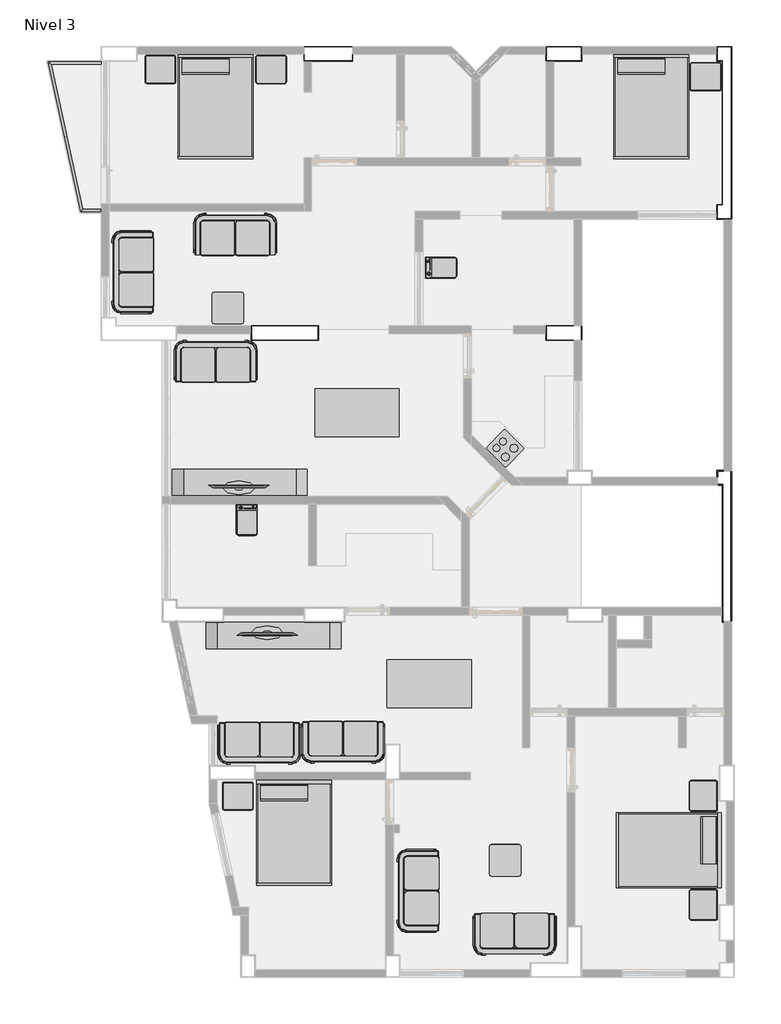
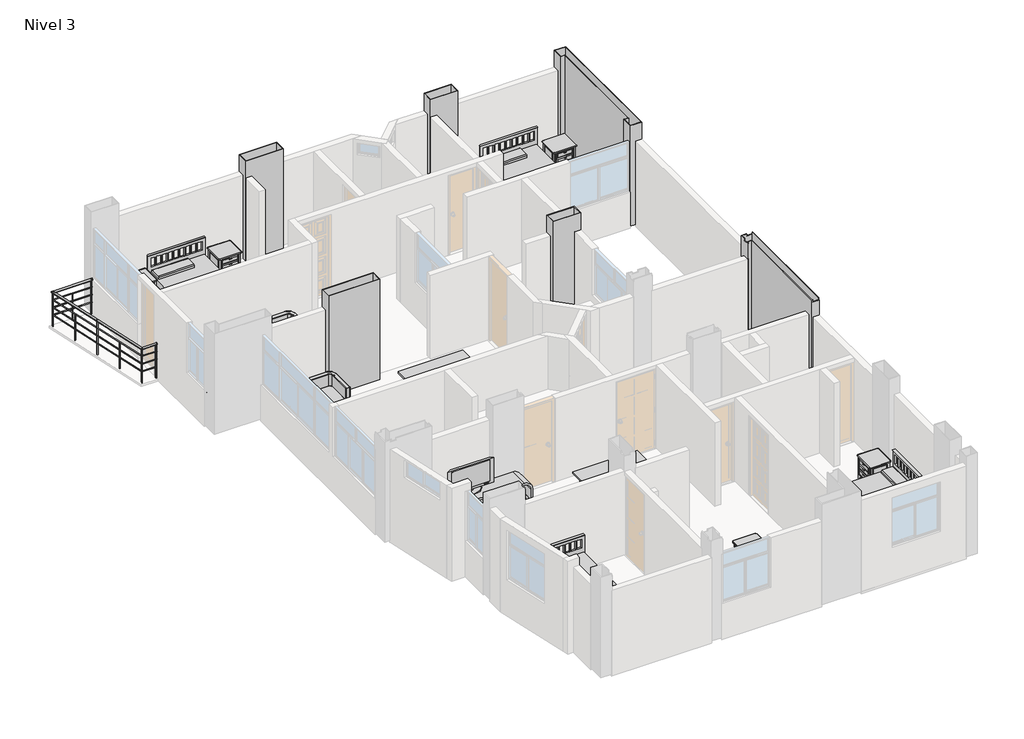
# One storey, part 4 of 4: 23 furniture elements, 6 columns, 5 proxies, 1 railing.
"""IFC4 building model written with IfcOpenShell, lengths in millimetres."""

from ifc_helpers import new_model, si_unit, point, frame, frame_2d, origin, place, context, project, spatial, circle_curve, ellipse_curve, trimmed, segment, composite_curve, outline, extrude, faceted_brep, transform, mapped, element, save
from ifc_brep_helpers import plane_surface, cylinder_surface, advanced_brep
from components import specialty_equipment_2e13d9fc, proxy_400mm_x_600mm_x_850mm_a42225af, proxy_42_inch_plasma_tv_11107_42_inch_plasma_tv_11107_394337c5, furniture_18450899, furniture_bfac4297, furniture_1422_x_1981_mm_doble_c85bece8, furniture_160_x_80_cm_madera_claro_7cd3064c, furniture_600mm_x_600mm_a769e95e, bed_side_table_9129_bed_side_table_9129_b31ec6e2, bed_side_table_9129_bed_side_table_9129_c77a05bd, tv_room_furn_4056_tv_room_furn_4056_870fe8c4

model = new_model("IFC4")

# Units and contexts
model_context = context("Model", 3, world=origin())
ifc_project = project(units=[si_unit("LENGTHUNIT", "METRE", prefix="MILLI")], contexts=[model_context])

# Site, building, storey
site = spatial("IfcSite", under=ifc_project)
building = spatial("IfcBuilding", under=site)
storey = spatial("IfcBuildingStorey", under=building, Name="Nivel 3", Elevation=5450.0)

# Proxies
placement = place(None, origin())
specialty_equipment_shape = specialty_equipment_2e13d9fc(model_context)
element("IfcBuildingElementProxy", 1, Name="Electric Hob : Electric Hob", ObjectType="Electric Hob : Electric Hob", at=placement, inside=storey, context=model_context, shape_type="MappedRepresentation", body=[
    mapped(specialty_equipment_shape, transform((5026.7577455, 10021.1807466, 6250.0), x_axis=(-0.7121213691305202, 0.7020563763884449, 0.0), y_axis=(-0.7020563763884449, -0.7121213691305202, 0.0), z_axis=(0.0, 0.0, 1.0))),
])
proxy_400mm_x_600mm_x_850mm_shape = proxy_400mm_x_600mm_x_850mm_a42225af(model_context)
element("IfcBuildingElementProxy", 2, Name="Lave linge - Chargement par le dessus : 400mm x 600mm x 850mm", ObjectType="Lave linge - Chargement par le dessus : 400mm x 600mm x 850mm", at=placement, inside=storey, context=model_context, shape_type="MappedRepresentation", body=[
    mapped(proxy_400mm_x_600mm_x_850mm_shape, transform((3933.8207986, 13503.4949484, 5450.0), x_axis=(0.0, 1.0, 0.0), y_axis=(-1.0, 0.0, 0.0), z_axis=(0.0, 0.0, 1.0))),
])
element("IfcBuildingElementProxy", 3, Name="Lave linge - Chargement par le dessus : 400mm x 600mm x 850mm", ObjectType="Lave linge - Chargement par le dessus : 400mm x 600mm x 850mm", at=placement, inside=storey, context=model_context, shape_type="MappedRepresentation", body=[
    mapped(proxy_400mm_x_600mm_x_850mm_shape, transform((138.4955292, 8536.1797822, 5450.0), x_axis=(1.0, 0.0, 0.0), y_axis=(0.0, 1.0, 0.0), z_axis=(0.0, 0.0, 1.0))),
])
proxy_42_inch_plasma_tv_11107_42_inch_plasma_tv_11107_shape = proxy_42_inch_plasma_tv_11107_42_inch_plasma_tv_11107_394337c5(model_context)
element("IfcBuildingElementProxy", 4, Name="42_inch_plasma_tv_11107 : 42_inch_plasma_tv_11107", ObjectType="42_inch_plasma_tv_11107 : 42_inch_plasma_tv_11107", at=placement, inside=storey, context=model_context, shape_type="MappedRepresentation", body=[
    mapped(proxy_42_inch_plasma_tv_11107_42_inch_plasma_tv_11107_shape, transform((-49.9994192, 9335.0, 6300.0), x_axis=(-1.0, 0.0, 0.0), y_axis=(0.0, -1.0, 0.0), z_axis=(0.0, 0.0, 1.0))),
])
element("IfcBuildingElementProxy", 5, Name="42_inch_plasma_tv_11107 : 42_inch_plasma_tv_11107", ObjectType="42_inch_plasma_tv_11107 : 42_inch_plasma_tv_11107", at=placement, inside=storey, context=model_context, shape_type="MappedRepresentation", body=[
    mapped(proxy_42_inch_plasma_tv_11107_42_inch_plasma_tv_11107_shape, transform((490.0005808, 6480.0, 6300.0), x_axis=(1.0, 0.0, 0.0), y_axis=(0.0, 1.0, 0.0), z_axis=(0.0, 0.0, 1.0))),
])

# Columns
element("IfcColumn", 6, ObjectType="Columna U Arquitectonica : Columna U Arquitectonica", at=placement, inside=storey, context=model_context, shape_type="Brep", body=[
    faceted_brep([(9035.0, 14665.0, 5450.0), (9135.0, 14665.0, 5450.0), (9135.0, 17385.0, 5450.0), (9035.0, 17385.0, 5450.0), (9035.0, 17665.0, 5450.0), (9315.0, 17665.0, 5450.0), (9315.0, 14385.0, 5450.0), (9035.0, 14385.0, 5450.0), (9050.0, 14650.0, 5450.0), (9050.0, 14400.0, 5450.0), (9300.0, 14400.0, 5450.0), (9300.0, 17650.0, 5450.0), (9050.0, 17650.0, 5450.0), (9050.0, 17400.0, 5450.0), (9150.0, 17400.0, 5450.0), (9150.0, 14650.0, 5450.0), (9150.0, 14650.0, 8100.0), (9050.0, 14650.0, 8100.0), (9150.0, 17400.0, 8100.0), (9050.0, 17400.0, 8100.0), (9050.0, 17650.0, 8100.0), (9300.0, 17650.0, 8100.0), (9300.0, 14400.0, 8100.0), (9050.0, 14400.0, 8100.0), (9035.0, 14665.0, 8100.0), (9035.0, 14385.0, 8100.0), (9315.0, 14385.0, 8100.0), (9315.0, 17665.0, 8100.0), (9035.0, 17665.0, 8100.0), (9035.0, 17385.0, 8100.0), (9135.0, 17385.0, 8100.0), (9135.0, 14665.0, 8100.0), (9035.0, 17665.0, 8050.0), (9035.0, 17665.0, 7650.0), (9315.0, 14385.0, 8050.0), (9315.0, 14385.0, 7650.0), (9035.0, 14385.0, 8050.0), (9035.0, 14385.0, 6350.0)], [[[0, 1, 2, 3, 4, 5, 6, 7], [8, 9, 10, 11, 12, 13, 14, 15]], [[16, 17, 8, 15]], [[18, 16, 15, 14]], [[19, 18, 14, 13]], [[20, 19, 13, 12]], [[21, 20, 12, 11]], [[22, 21, 11, 10]], [[23, 22, 10, 9]], [[17, 23, 9, 8]], [[24, 25, 26, 27, 28, 29, 30, 31], [17, 16, 18, 19, 20, 21, 22, 23]], [[24, 31, 1, 0]], [[31, 30, 2, 1]], [[30, 29, 3, 2]], [[29, 28, 32, 33, 4, 3]], [[28, 27, 5, 4, 33, 32]], [[27, 26, 34, 35, 6, 5]], [[26, 25, 36, 37, 7, 6, 35, 34]], [[25, 24, 0, 7, 37, 36]]]),
])
element("IfcColumn", 7, ObjectType="Columna L Arquitectonica : ACO_L 25x285x25x15 cm", at=placement, inside=storey, context=model_context, shape_type="Brep", body=[
    faceted_brep([(9165.0, 9600.0, 5450.0), (9050.0, 9600.0, 5450.0), (9050.0, 9485.0, 5450.0), (9035.0, 9485.0, 5450.0), (9035.0, 9615.0, 5450.0), (9165.0, 9615.0, 5450.0), (9150.0, 6750.0, 5450.0), (9150.0, 6750.0, 8100.0), (9165.0, 6750.0, 8100.0), (9165.0, 6750.0, 8050.0), (9300.0, 6750.0, 8050.0), (9300.0, 6750.0, 7650.0), (9165.0, 6750.0, 7650.0), (9165.0, 6750.0, 5450.0), (9300.0, 9600.0, 5450.0), (9300.0, 6750.0, 5450.0), (9300.0, 6750.0, 8100.0), (9300.0, 9600.0, 8100.0), (9300.0, 9600.0, 8050.0), (9300.0, 9600.0, 7650.0), (9050.0, 9600.0, 8100.0), (9165.0, 9600.0, 7650.0), (9165.0, 9600.0, 8050.0), (9165.0, 9600.0, 8100.0), (9050.0, 9485.0, 8100.0), (9050.0, 9485.0, 8050.0), (9050.0, 9350.0, 8050.0), (9050.0, 9350.0, 7650.0), (9050.0, 9485.0, 7650.0), (9150.0, 9350.0, 5450.0), (9050.0, 9350.0, 5450.0), (9050.0, 9350.0, 8100.0), (9150.0, 9350.0, 8100.0), (9135.0, 9335.0, 8100.0), (9135.0, 9335.0, 5450.0), (9135.0, 7015.0, 5450.0), (9135.0, 6865.0, 5450.0), (9135.0, 6735.0, 5450.0), (9135.0, 6735.0, 8100.0), (9135.0, 6865.0, 8100.0), (9135.0, 7015.0, 8100.0), (9050.0, 9335.0, 8100.0), (9050.0, 9335.0, 8050.0), (9035.0, 9335.0, 8050.0), (9035.0, 9335.0, 7650.0), (9050.0, 9335.0, 7650.0), (9050.0, 9335.0, 5450.0), (9035.0, 9615.0, 8100.0), (9035.0, 9485.0, 7650.0), (9035.0, 9485.0, 8050.0), (9035.0, 9485.0, 8100.0), (9165.0, 9615.0, 8100.0), (9165.0, 9615.0, 8050.0), (9315.0, 9615.0, 8050.0), (9315.0, 9615.0, 7650.0), (9165.0, 9615.0, 7650.0), (9315.0, 9600.0, 5450.0), (9315.0, 9600.0, 7650.0), (9315.0, 9600.0, 8050.0), (9315.0, 9600.0, 8100.0), (9315.0, 6750.0, 8100.0), (9315.0, 6750.0, 8050.0), (9315.0, 6735.0, 8050.0), (9315.0, 6735.0, 7650.0), (9315.0, 6750.0, 7650.0), (9315.0, 6750.0, 5450.0), (9165.0, 6735.0, 5450.0), (9165.0, 6735.0, 7650.0), (9165.0, 6735.0, 8050.0), (9165.0, 6735.0, 8100.0)], [[[0, 1, 2, 3, 4, 5]], [[6, 7, 8, 9, 10, 11, 12, 13]], [[14, 15, 11, 10, 16, 17, 18, 19]], [[20, 1, 0, 21, 19, 18, 22, 23]], [[1, 20, 24, 25, 26, 27, 28, 2]], [[29, 30, 27, 26, 31, 32]], [[6, 29, 32, 7]], [[33, 34, 35, 36, 37, 38, 39, 40]], [[34, 33, 41, 42, 43, 44, 45, 46]], [[47, 4, 3, 48, 44, 43, 49, 50]], [[4, 47, 51, 52, 53, 54, 55, 5]], [[56, 57, 54, 53, 58, 59, 60, 61, 62, 63, 64, 65]], [[38, 37, 66, 67, 63, 62, 68, 69]], [[17, 16, 60, 59]], [[55, 21, 0, 5]], [[19, 57, 56, 14]], [[57, 19, 21, 55, 54]], [[12, 67, 66, 13]], [[11, 64, 63, 67, 12]], [[64, 11, 15, 65]], [[15, 14, 56, 65]], [[28, 48, 3, 2]], [[45, 27, 30, 46]], [[27, 45, 44, 48, 28]], [[30, 29, 6, 13, 66, 37, 36, 35, 34, 46]], [[22, 52, 51, 23]], [[18, 58, 53, 52, 22]], [[58, 18, 17, 59]], [[68, 9, 8, 69]], [[61, 10, 9, 68, 62]], [[10, 61, 60, 16]], [[32, 31, 41, 33, 40, 39, 38, 69, 8, 7]], [[49, 25, 24, 50]], [[42, 26, 25, 49, 43]], [[26, 42, 41, 31]], [[20, 23, 51, 47, 50, 24]]]),
])
element("IfcColumn", 8, ObjectType="Columna Rectangular Arquitectonica : ACO_Rectangular 25x125 cm", at=placement, inside=storey, context=model_context, shape_type="Brep", body=[
    faceted_brep([(185.0, 12365.0, 5450.0), (1465.0, 12365.0, 5450.0), (1465.0, 12085.0, 5450.0), (185.0, 12085.0, 5450.0), (200.0, 12350.0, 5450.0), (200.0, 12100.0, 5450.0), (1450.0, 12100.0, 5450.0), (1450.0, 12350.0, 5450.0), (200.0, 12350.0, 8100.0), (200.0, 12100.0, 8100.0), (1450.0, 12100.0, 8100.0), (1450.0, 12350.0, 8100.0), (185.0, 12365.0, 8100.0), (1465.0, 12365.0, 8100.0), (185.0, 12365.0, 7650.0), (185.0, 12365.0, 8050.0), (1465.0, 12085.0, 8100.0), (185.0, 12085.0, 8100.0)], [[[0, 1, 2, 3], [4, 5, 6, 7]], [[8, 9, 5, 4]], [[9, 10, 6, 5]], [[10, 11, 7, 6]], [[11, 8, 4, 7]], [[12, 13, 1, 0, 14, 15]], [[13, 16, 2, 1]], [[16, 17, 3, 2]], [[17, 12, 15, 14, 0, 3]], [[12, 17, 16, 13], [8, 11, 10, 9]]]),
])
element("IfcColumn", 9, ObjectType="Columna Rectangular Arquitectonica : ACO_Rectangular 25x65 cm", at=placement, inside=storey, context=model_context, shape_type="Brep", body=[
    faceted_brep([(5785.0, 17665.0, 5450.0), (6465.0, 17665.0, 5450.0), (6465.0, 17385.0, 5450.0), (5785.0, 17385.0, 5450.0), (5800.0, 17650.0, 5450.0), (5800.0, 17400.0, 5450.0), (6450.0, 17400.0, 5450.0), (6450.0, 17650.0, 5450.0), (5800.0, 17650.0, 8100.0), (5800.0, 17400.0, 8100.0), (6450.0, 17400.0, 8100.0), (6450.0, 17650.0, 8100.0), (5785.0, 17665.0, 8100.0), (6465.0, 17665.0, 8100.0), (6465.0, 17665.0, 8050.0), (6465.0, 17665.0, 7650.0), (5785.0, 17665.0, 7650.0), (5785.0, 17665.0, 8050.0), (6465.0, 17385.0, 8100.0), (5785.0, 17385.0, 8100.0), (5785.0, 17385.0, 8050.0), (5785.0, 17385.0, 7650.0)], [[[0, 1, 2, 3], [4, 5, 6, 7]], [[8, 9, 5, 4]], [[9, 10, 6, 5]], [[10, 11, 7, 6]], [[11, 8, 4, 7]], [[12, 13, 14, 15, 1, 0, 16, 17]], [[13, 18, 2, 1, 15, 14]], [[18, 19, 20, 21, 3, 2]], [[19, 12, 17, 16, 0, 3, 21, 20]], [[12, 19, 18, 13], [8, 11, 10, 9]]]),
])
element("IfcColumn", 10, ObjectType="Columna Rectangular Arquitectonica : ACO_Rectangular 25x65 cm", at=placement, inside=storey, context=model_context, shape_type="Brep", body=[
    faceted_brep([(5785.0, 12365.0, 5450.0), (6465.0, 12365.0, 5450.0), (6465.0, 12085.0, 5450.0), (5785.0, 12085.0, 5450.0), (5800.0, 12350.0, 5450.0), (5800.0, 12100.0, 5450.0), (6450.0, 12100.0, 5450.0), (6450.0, 12350.0, 5450.0), (5800.0, 12350.0, 8100.0), (5800.0, 12100.0, 8100.0), (6450.0, 12100.0, 8100.0), (6450.0, 12350.0, 8100.0), (5785.0, 12365.0, 8100.0), (6465.0, 12365.0, 8100.0), (6465.0, 12365.0, 8050.0), (6465.0, 12365.0, 7650.0), (5785.0, 12365.0, 7650.0), (5785.0, 12365.0, 8050.0), (6465.0, 12085.0, 8100.0), (6465.0, 12085.0, 8050.0), (6465.0, 12085.0, 7650.0), (5785.0, 12085.0, 8100.0)], [[[0, 1, 2, 3], [4, 5, 6, 7]], [[8, 9, 5, 4]], [[9, 10, 6, 5]], [[10, 11, 7, 6]], [[11, 8, 4, 7]], [[12, 13, 14, 15, 1, 0, 16, 17]], [[13, 18, 19, 20, 2, 1, 15, 14]], [[18, 21, 3, 2, 20, 19]], [[21, 12, 17, 16, 0, 3]], [[12, 21, 18, 13], [8, 11, 10, 9]]]),
])
element("IfcColumn", 11, ObjectType="Columna Rectangular Arquitectonica : ACO_Rectangular 25x90 cm", at=placement, inside=storey, context=model_context, shape_type="Brep", body=[
    faceted_brep([(1185.0, 17665.0, 5450.0), (2115.0, 17665.0, 5450.0), (2115.0, 17385.0, 5450.0), (1185.0, 17385.0, 5450.0), (1200.0, 17650.0, 5450.0), (1200.0, 17400.0, 5450.0), (2100.0, 17400.0, 5450.0), (2100.0, 17650.0, 5450.0), (1200.0, 17650.0, 8100.0), (1200.0, 17400.0, 8100.0), (2100.0, 17400.0, 8100.0), (2100.0, 17650.0, 8100.0), (1185.0, 17665.0, 8100.0), (2115.0, 17665.0, 8100.0), (2115.0, 17665.0, 8050.0), (2115.0, 17665.0, 7650.0), (1185.0, 17665.0, 7650.0), (1185.0, 17665.0, 8050.0), (2115.0, 17385.0, 8100.0), (1185.0, 17385.0, 8100.0), (1185.0, 17385.0, 8050.0), (1185.0, 17385.0, 7650.0)], [[[0, 1, 2, 3], [4, 5, 6, 7]], [[8, 9, 5, 4]], [[9, 10, 6, 5]], [[10, 11, 7, 6]], [[11, 8, 4, 7]], [[12, 13, 14, 15, 1, 0, 16, 17]], [[13, 18, 2, 1, 15, 14]], [[18, 19, 20, 21, 3, 2]], [[19, 12, 17, 16, 0, 3, 21, 20]], [[12, 19, 18, 13], [8, 11, 10, 9]]]),
])

# Furniture
furniture_shape = furniture_18450899(model_context)
furniture_2_shape = furniture_bfac4297(model_context)
element("IfcFurniture", 12, ObjectType="00304 - Haworth - Castelli - Jul 13 - Ver - 4 - M_Sit (SLMS-FD02-8P) : Settee_SLMS-FD-02", at=placement, inside=storey, context=model_context, shape_type="MappedRepresentation", body=[
    mapped(furniture_shape, transform((-528.0530561, 11371.2276294, 5450.0), x_axis=(1.0, 0.0, 0.0), y_axis=(0.0, 1.0, 0.0), z_axis=(0.0, 0.0, 1.0))),
    mapped(furniture_2_shape, transform((-528.0530561, 11371.2276294, 5450.0), x_axis=(1.0, 0.0, 0.0), y_axis=(0.0, 1.0, 0.0), z_axis=(0.0, 0.0, 1.0))),
])
element("IfcFurniture", 13, ObjectType="00304 - Haworth - Castelli - Jul 13 - Ver - 4 - M_Sit (SLMS-FD02-8P) : Settee_SLMS-FD-02", at=placement, inside=storey, context=model_context, shape_type="MappedRepresentation", body=[
    mapped(furniture_shape, transform((-1751.2276294, 13341.9463631, 5450.0), x_axis=(0.0, 1.0, 0.0), y_axis=(-1.0, 0.0, 0.0), z_axis=(0.0, 0.0, 1.0))),
    mapped(furniture_2_shape, transform((-1751.2276294, 13341.9463631, 5450.0), x_axis=(0.0, 1.0, 0.0), y_axis=(-1.0, 0.0, 0.0), z_axis=(0.0, 0.0, 1.0))),
])
element("IfcFurniture", 14, ObjectType="00304 - Haworth - Castelli - Jul 13 - Ver - 4 - M_Sit (SLMS-FD02-8P) : Settee_SLMS-FD-02", at=placement, inside=storey, context=model_context, shape_type="MappedRepresentation", body=[
    mapped(furniture_shape, transform((-158.0536369, 13781.2276294, 5450.0), x_axis=(1.0, 0.0, 0.0), y_axis=(0.0, 1.0, 0.0), z_axis=(0.0, 0.0, 1.0))),
    mapped(furniture_2_shape, transform((-158.0536369, 13781.2276294, 5450.0), x_axis=(1.0, 0.0, 0.0), y_axis=(0.0, 1.0, 0.0), z_axis=(0.0, 0.0, 1.0))),
])
element("IfcFurniture", 15, ObjectType="00304 - Haworth - Castelli - Jul 13 - Ver - 4 - M_Sit (SLMS-FD02-8P) : Settee_SLMS-FD-02", at=placement, inside=storey, context=model_context, shape_type="MappedRepresentation", body=[
    mapped(furniture_shape, transform((378.0536369, 4748.7723706, 5450.0), x_axis=(-1.0, 0.0, 0.0), y_axis=(0.0, -1.0, 0.0), z_axis=(0.0, 0.0, 1.0))),
    mapped(furniture_2_shape, transform((378.0536369, 4748.7723706, 5450.0), x_axis=(-1.0, 0.0, 0.0), y_axis=(0.0, -1.0, 0.0), z_axis=(0.0, 0.0, 1.0))),
])
element("IfcFurniture", 16, ObjectType="00304 - Haworth - Castelli - Jul 13 - Ver - 4 - M_Sit (SLMS-FD02-8P) : Settee_SLMS-FD-02", at=placement, inside=storey, context=model_context, shape_type="MappedRepresentation", body=[
    mapped(furniture_shape, transform((1968.0542177, 4768.7723706, 5450.0), x_axis=(-1.0, 0.0, 0.0), y_axis=(0.0, -1.0, 0.0), z_axis=(0.0, 0.0, 1.0))),
    mapped(furniture_2_shape, transform((1968.0542177, 4768.7723706, 5450.0), x_axis=(-1.0, 0.0, 0.0), y_axis=(0.0, -1.0, 0.0), z_axis=(0.0, 0.0, 1.0))),
])
element("IfcFurniture", 17, ObjectType="00304 - Haworth - Castelli - Jul 13 - Ver - 4 - M_Sit (SLMS-FD02-8P) : Settee_SLMS-FD-02", at=placement, inside=storey, context=model_context, shape_type="MappedRepresentation", body=[
    mapped(furniture_shape, transform((3668.7723706, 1591.9463631, 5450.0), x_axis=(0.0, 1.0, 0.0), y_axis=(-1.0, 0.0, 0.0), z_axis=(0.0, 0.0, 1.0))),
    mapped(furniture_2_shape, transform((3668.7723706, 1591.9463631, 5450.0), x_axis=(0.0, 1.0, 0.0), y_axis=(-1.0, 0.0, 0.0), z_axis=(0.0, 0.0, 1.0))),
])
element("IfcFurniture", 18, ObjectType="00304 - Haworth - Castelli - Jul 13 - Ver - 4 - M_Sit (SLMS-FD02-8P) : Settee_SLMS-FD-02", at=placement, inside=storey, context=model_context, shape_type="MappedRepresentation", body=[
    mapped(furniture_shape, transform((5228.0536369, 1118.7723706, 5450.0), x_axis=(-1.0, 0.0, 0.0), y_axis=(0.0, -1.0, 0.0), z_axis=(0.0, 0.0, 1.0))),
    mapped(furniture_2_shape, transform((5228.0536369, 1118.7723706, 5450.0), x_axis=(-1.0, 0.0, 0.0), y_axis=(0.0, -1.0, 0.0), z_axis=(0.0, 0.0, 1.0))),
])
furniture_1422_x_1981_mm_doble_shape = furniture_1422_x_1981_mm_doble_c85bece8(model_context)
element("IfcFurniture", 19, ObjectType="Cama-Agitador : 1422 x 1981 mm - Doble", at=placement, inside=storey, context=model_context, shape_type="MappedRepresentation", body=[
    mapped(furniture_1422_x_1981_mm_doble_shape, transform((-469.75, 17515.0, 5450.0), x_axis=(1.0, 0.0, 0.0), y_axis=(0.0, 1.0, 0.0), z_axis=(0.0, 0.0, 1.0))),
])
element("IfcFurniture", 20, ObjectType="Cama-Agitador : 1422 x 1981 mm - Doble", at=placement, inside=storey, context=model_context, shape_type="MappedRepresentation", body=[
    mapped(furniture_1422_x_1981_mm_doble_shape, transform((7810.25, 17515.0, 5450.0), x_axis=(1.0, 0.0, 0.0), y_axis=(0.0, 1.0, 0.0), z_axis=(0.0, 0.0, 1.0))),
])
element("IfcFurniture", 21, ObjectType="Cama-Agitador : 1422 x 1981 mm - Doble", at=placement, inside=storey, context=model_context, shape_type="MappedRepresentation", body=[
    mapped(furniture_1422_x_1981_mm_doble_shape, transform((1017.85, 3715.0, 5450.0), x_axis=(1.0, 0.0, 0.0), y_axis=(0.0, 1.0, 0.0), z_axis=(0.0, 0.0, 1.0))),
])
element("IfcFurniture", 22, ObjectType="Cama-Agitador : 1422 x 1981 mm - Doble", at=placement, inside=storey, context=model_context, shape_type="MappedRepresentation", body=[
    mapped(furniture_1422_x_1981_mm_doble_shape, transform((9104.2216492, 2380.95, 5450.0), x_axis=(0.0, -1.0, 0.0), y_axis=(1.0, 0.0, 0.0), z_axis=(0.0, 0.0, 1.0))),
])
furniture_160_x_80_cm_madera_claro_shape = furniture_160_x_80_cm_madera_claro_7cd3064c(model_context)
element("IfcFurniture", 23, ObjectType="Mesa Comedor 6 personas : 160 x 80 cm - Madera claro", at=placement, inside=storey, context=model_context, shape_type="MappedRepresentation", body=[
    mapped(furniture_160_x_80_cm_madera_claro_shape, transform((2179.6830368, 10670.8700593, 5450.0), x_axis=(1.0, 0.0, 0.0), y_axis=(0.0, 1.0, 0.0), z_axis=(0.0, 0.0, 1.0))),
])
element("IfcFurniture", 24, ObjectType="Mesa Comedor 6 personas : 160 x 80 cm - Madera claro", at=placement, inside=storey, context=model_context, shape_type="MappedRepresentation", body=[
    mapped(furniture_160_x_80_cm_madera_claro_shape, transform((3551.0325083, 5521.5163413, 5450.0), x_axis=(1.0, 0.0, 0.0), y_axis=(0.0, 1.0, 0.0), z_axis=(0.0, 0.0, 1.0))),
])
furniture_600mm_x_600mm_shape = furniture_600mm_x_600mm_a769e95e(model_context)
element("IfcFurniture", 25, ObjectType="Table rectangulaire - Petit : 600mm x 600mm", at=placement, inside=storey, context=model_context, shape_type="MappedRepresentation", body=[
    mapped(furniture_600mm_x_600mm_shape, transform((-289.1058232, 12730.0, 5450.0), x_axis=(1.0, 0.0, 0.0), y_axis=(0.0, 1.0, 0.0), z_axis=(0.0, 0.0, 1.0))),
])
element("IfcFurniture", 26, ObjectType="Table rectangulaire - Petit : 600mm x 600mm", at=placement, inside=storey, context=model_context, shape_type="MappedRepresentation", body=[
    mapped(furniture_600mm_x_600mm_shape, transform((4980.8941768, 2240.0, 5450.0), x_axis=(1.0, 0.0, 0.0), y_axis=(0.0, 1.0, 0.0), z_axis=(0.0, 0.0, 1.0))),
])
bed_side_table_9129_bed_side_table_9129_shape = bed_side_table_9129_bed_side_table_9129_b31ec6e2(model_context)
element("IfcFurniture", 27, ObjectType="BED_SIDE_TABLE_9129 : BED_SIDE_TABLE_9129", at=placement, inside=storey, context=model_context, shape_type="MappedRepresentation", body=[
    mapped(bed_side_table_9129_bed_side_table_9129_shape, transform((-1580.0, 17192.5292073, 5450.0), x_axis=(1.0, 0.0, 0.0), y_axis=(0.0, 1.0, 0.0), z_axis=(0.0, 0.0, 1.0))),
])
element("IfcFurniture", 28, ObjectType="BED_SIDE_TABLE_9129 : BED_SIDE_TABLE_9129", at=placement, inside=storey, context=model_context, shape_type="MappedRepresentation", body=[
    mapped(bed_side_table_9129_bed_side_table_9129_shape, transform((-110.0, 3392.5292073, 5450.0), x_axis=(1.0, 0.0, 0.0), y_axis=(0.0, 1.0, 0.0), z_axis=(0.0, 0.0, 1.0))),
])
element("IfcFurniture", 29, ObjectType="BED_SIDE_TABLE_9129 : BED_SIDE_TABLE_9129", at=placement, inside=storey, context=model_context, shape_type="MappedRepresentation", body=[
    mapped(bed_side_table_9129_bed_side_table_9129_shape, transform((8742.5292073, 3475.0, 5450.0), x_axis=(0.0, -1.0, 0.0), y_axis=(1.0, 0.0, 0.0), z_axis=(0.0, 0.0, 1.0))),
])
element("IfcFurniture", 30, ObjectType="BED_SIDE_TABLE_9129 : BED_SIDE_TABLE_9129", at=placement, inside=storey, context=model_context, shape_type="MappedRepresentation", body=[
    mapped(bed_side_table_9129_bed_side_table_9129_shape, transform((8742.5292073, 1405.0, 5450.0), x_axis=(0.0, -1.0, 0.0), y_axis=(1.0, 0.0, 0.0), z_axis=(0.0, 0.0, 1.0))),
])
bed_side_table_9129_bed_side_table_9129_2_shape = bed_side_table_9129_bed_side_table_9129_c77a05bd(model_context)
element("IfcFurniture", 31, ObjectType="BED_SIDE_TABLE_9129 : BED_SIDE_TABLE_9129", at=placement, inside=storey, context=model_context, shape_type="MappedRepresentation", body=[
    mapped(bed_side_table_9129_bed_side_table_9129_2_shape, transform((602.4, 17192.5292073, 5450.0), x_axis=(-1.0, 0.0, 0.0), y_axis=(0.0, -1.0, 0.0), z_axis=(0.0, 0.0, 1.0))),
])
element("IfcFurniture", 32, ObjectType="BED_SIDE_TABLE_9129 : BED_SIDE_TABLE_9129", at=placement, inside=storey, context=model_context, shape_type="MappedRepresentation", body=[
    mapped(bed_side_table_9129_bed_side_table_9129_2_shape, transform((8862.4, 17052.5292073, 5450.0), x_axis=(-1.0, 0.0, 0.0), y_axis=(0.0, -1.0, 0.0), z_axis=(0.0, 0.0, 1.0))),
])
tv_room_furn_4056_tv_room_furn_4056_shape = tv_room_furn_4056_tv_room_furn_4056_870fe8c4(model_context)
element("IfcFurniture", 33, ObjectType="TV_Room_Furn_4056 : TV_Room_Furn_4056", at=placement, inside=storey, context=model_context, shape_type="MappedRepresentation", body=[
    mapped(tv_room_furn_4056_tv_room_furn_4056_shape, transform((-89.9994192, 9390.0, 5450.0), x_axis=(1.0, 0.0, 0.0), y_axis=(0.0, 1.0, 0.0), z_axis=(0.0, 0.0, 1.0))),
])
element("IfcFurniture", 34, ObjectType="TV_Room_Furn_4056 : TV_Room_Furn_4056", at=placement, inside=storey, context=model_context, shape_type="MappedRepresentation", body=[
    mapped(tv_room_furn_4056_tv_room_furn_4056_shape, transform((550.0005808, 6480.0, 5450.0), x_axis=(1.0, 0.0, 0.0), y_axis=(0.0, 1.0, 0.0), z_axis=(0.0, 0.0, 1.0))),
])

# Railing
element("IfcRailing", 35, ObjectType="Montantes Horizontales", at=placement, inside=storey, context=model_context, shape_type="SolidModel", body=[
    advanced_brep(
    [(-2665.0, 17375.0, 6350.0), (-2665.0, 17325.0, 6350.0), (-3674.0339681, 17375.0, 6350.0), (-3612.062221, 17325.0, 6350.0), (-3058.3563834, 14528.6972314, 6350.0), (-3018.0154196, 14578.6972314, 6350.0), (-2665.0, 14528.6972314, 6350.0), (-2665.0, 14578.6972314, 6350.0)],
    [
        (0, 1, circle_curve(frame((-2665.0, 17350.0, 6350.0), z_axis=(1.0, 0.0, 0.0), x_axis=(0.0, -1.0, 0.0)), 25.0)),
        (1, 0, circle_curve(frame((-2665.0, 17350.0, 6350.0), z_axis=(1.0, 0.0, 0.0), x_axis=(0.0, -1.0, 0.0)), 25.0)),
        (0, 2),
        (2, 3, ellipse_curve(frame((-3643.0480946, 17350.0, 6350.0), z_axis=(0.6279258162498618, 0.7782731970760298, 0.0), x_axis=(0.7782731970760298, -0.6279258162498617, 0.0)), 39.8136203, 25.0)),
        (3, 1),
        (3, 2, ellipse_curve(frame((-3643.0480946, 17350.0, 6350.0), z_axis=(0.6279258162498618, 0.7782731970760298, 0.0), x_axis=(0.7782731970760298, -0.6279258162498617, 0.0)), 39.8136203, 25.0)),
        (2, 4),
        (4, 5, ellipse_curve(frame((-3038.1859015, 14553.6972314, 6350.0), z_axis=(-0.7782731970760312, 0.6279258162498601, 0.0), x_axis=(0.62792581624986, 0.7782731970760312, 0.0)), 32.1223962, 25.0)),
        (5, 3),
        (5, 4, ellipse_curve(frame((-3038.1859015, 14553.6972314, 6350.0), z_axis=(-0.7782731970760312, 0.6279258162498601, 0.0), x_axis=(0.62792581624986, 0.7782731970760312, 0.0)), 32.1223962, 25.0)),
        (6, 7, circle_curve(frame((-2665.0, 14553.6972314, 6350.0), z_axis=(1.0, 0.0, 0.0), x_axis=(0.0, 1.0, 0.0)), 25.0)),
        (7, 6, circle_curve(frame((-2665.0, 14553.6972314, 6350.0), z_axis=(1.0, 0.0, 0.0), x_axis=(0.0, 1.0, 0.0)), 25.0)),
        (4, 6),
        (7, 5),
    ],
    [
        plane_surface(frame((-2665.0, 17350.0, 6350.0), z_axis=(1.0, 0.0, 0.0), x_axis=(0.0, -1.0, 0.0))),
        cylinder_surface(frame((-2665.0, 17350.0, 6350.0), z_axis=(1.0, 0.0, 0.0), x_axis=(0.0, -1.0, 0.0)), 25.0),
        cylinder_surface(frame((-3643.0480946, 17350.0, 6350.0), z_axis=(-0.21141833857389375, 0.9773956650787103, 0.0), x_axis=(0.9773956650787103, 0.21141833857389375, 0.0)), 25.0),
        plane_surface(frame((-2665.0, 14553.6972314, 6350.0), z_axis=(1.0, 0.0, 0.0), x_axis=(0.0, 1.0, 0.0))),
        cylinder_surface(frame((-3038.1859015, 14553.6972314, 6350.0), z_axis=(-1.0, 0.0, 0.0), x_axis=(0.0, 1.0, 0.0)), 25.0),
    ],
    [
        (0, [[1, 2]]),
        (1, [[-1, 3, 4, 5]]),
        (1, [[-2, -5, 6, -3]]),
        (2, [[-4, 7, 8, 9]]),
        (2, [[-6, -9, 10, -7]]),
        (3, [[11, 12]]),
        (4, [[-8, 13, -12, 14]]),
        (4, [[-10, -14, -11, -13]]),
    ],
),
    advanced_brep(
    [(-2665.0, 17340.0, 6150.0), (-2665.0, 17360.0, 6150.0), (-3630.6537452, 17340.0, 6150.0), (-3655.442444, 17360.0, 6150.0), (-3030.1177088, 14563.6972314, 6150.0), (-3046.2540942, 14543.6972314, 6150.0), (-2665.0, 14563.6972314, 6150.0), (-2665.0, 14543.6972314, 6150.0)],
    [
        (0, 1, circle_curve(frame((-2665.0, 17350.0, 6150.0), z_axis=(1.0, 0.0, 0.0), x_axis=(0.0, 1.0, 0.0)), 10.0)),
        (1, 0, circle_curve(frame((-2665.0, 17350.0, 6150.0), z_axis=(1.0, 0.0, 0.0), x_axis=(0.0, 1.0, 0.0)), 10.0)),
        (0, 2),
        (2, 3, ellipse_curve(frame((-3643.0480946, 17350.0, 6150.0), z_axis=(0.6279258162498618, 0.7782731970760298, 0.0), x_axis=(0.7782731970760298, -0.6279258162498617, 0.0)), 15.9254481, 10.0)),
        (3, 1),
        (3, 2, ellipse_curve(frame((-3643.0480946, 17350.0, 6150.0), z_axis=(0.6279258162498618, 0.7782731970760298, 0.0), x_axis=(0.7782731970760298, -0.6279258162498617, 0.0)), 15.9254481, 10.0)),
        (2, 4),
        (4, 5, ellipse_curve(frame((-3038.1859015, 14553.6972314, 6150.0), z_axis=(-0.7782731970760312, 0.6279258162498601, 0.0), x_axis=(0.62792581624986, 0.7782731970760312, 0.0)), 12.8489585, 10.0)),
        (5, 3),
        (5, 4, ellipse_curve(frame((-3038.1859015, 14553.6972314, 6150.0), z_axis=(-0.7782731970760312, 0.6279258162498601, 0.0), x_axis=(0.62792581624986, 0.7782731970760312, 0.0)), 12.8489585, 10.0)),
        (6, 7, circle_curve(frame((-2665.0, 14553.6972314, 6150.0), z_axis=(1.0, 0.0, 0.0), x_axis=(0.0, -1.0, 0.0)), 10.0)),
        (7, 6, circle_curve(frame((-2665.0, 14553.6972314, 6150.0), z_axis=(1.0, 0.0, 0.0), x_axis=(0.0, -1.0, 0.0)), 10.0)),
        (4, 6),
        (7, 5),
    ],
    [
        plane_surface(frame((-2665.0, 17350.0, 6150.0), z_axis=(1.0, 0.0, 0.0), x_axis=(0.0, -1.0, 0.0))),
        cylinder_surface(frame((-2665.0, 17350.0, 6150.0), z_axis=(1.0, 0.0, 0.0), x_axis=(0.0, 1.0, 0.0)), 10.0),
        cylinder_surface(frame((-3643.0480946, 17350.0, 6150.0), z_axis=(-0.21141833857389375, 0.9773956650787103, 0.0), x_axis=(-0.9773956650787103, -0.21141833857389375, 0.0)), 10.0),
        plane_surface(frame((-2665.0, 14553.6972314, 6150.0), z_axis=(1.0, 0.0, 0.0), x_axis=(0.0, 1.0, 0.0))),
        cylinder_surface(frame((-3038.1859015, 14553.6972314, 6150.0), z_axis=(-1.0, 0.0, 0.0), x_axis=(0.0, -1.0, 0.0)), 10.0),
    ],
    [
        (0, [[1, 2]]),
        (1, [[-1, 3, 4, 5]]),
        (1, [[-2, -5, 6, -3]]),
        (2, [[-4, 7, 8, 9]]),
        (2, [[-6, -9, 10, -7]]),
        (3, [[11, 12]]),
        (4, [[-8, 13, -12, 14]]),
        (4, [[-10, -14, -11, -13]]),
    ],
),
    advanced_brep(
    [(-2665.0, 17340.0, 5950.0), (-2665.0, 17360.0, 5950.0), (-3630.6537452, 17340.0, 5950.0), (-3655.442444, 17360.0, 5950.0), (-3030.1177088, 14563.6972314, 5950.0), (-3046.2540942, 14543.6972314, 5950.0), (-2665.0, 14563.6972314, 5950.0), (-2665.0, 14543.6972314, 5950.0)],
    [
        (0, 1, circle_curve(frame((-2665.0, 17350.0, 5950.0), z_axis=(1.0, 0.0, 0.0), x_axis=(0.0, 1.0, 0.0)), 10.0)),
        (1, 0, circle_curve(frame((-2665.0, 17350.0, 5950.0), z_axis=(1.0, 0.0, 0.0), x_axis=(0.0, 1.0, 0.0)), 10.0)),
        (0, 2),
        (2, 3, ellipse_curve(frame((-3643.0480946, 17350.0, 5950.0), z_axis=(0.6279258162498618, 0.7782731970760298, 0.0), x_axis=(0.7782731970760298, -0.6279258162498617, 0.0)), 15.9254481, 10.0)),
        (3, 1),
        (3, 2, ellipse_curve(frame((-3643.0480946, 17350.0, 5950.0), z_axis=(0.6279258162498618, 0.7782731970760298, 0.0), x_axis=(0.7782731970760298, -0.6279258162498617, 0.0)), 15.9254481, 10.0)),
        (2, 4),
        (4, 5, ellipse_curve(frame((-3038.1859015, 14553.6972314, 5950.0), z_axis=(-0.7782731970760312, 0.6279258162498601, 0.0), x_axis=(0.62792581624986, 0.7782731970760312, 0.0)), 12.8489585, 10.0)),
        (5, 3),
        (5, 4, ellipse_curve(frame((-3038.1859015, 14553.6972314, 5950.0), z_axis=(-0.7782731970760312, 0.6279258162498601, 0.0), x_axis=(0.62792581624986, 0.7782731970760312, 0.0)), 12.8489585, 10.0)),
        (6, 7, circle_curve(frame((-2665.0, 14553.6972314, 5950.0), z_axis=(1.0, 0.0, 0.0), x_axis=(0.0, -1.0, 0.0)), 10.0)),
        (7, 6, circle_curve(frame((-2665.0, 14553.6972314, 5950.0), z_axis=(1.0, 0.0, 0.0), x_axis=(0.0, -1.0, 0.0)), 10.0)),
        (4, 6),
        (7, 5),
    ],
    [
        plane_surface(frame((-2665.0, 17350.0, 5950.0), z_axis=(1.0, 0.0, 0.0), x_axis=(0.0, -1.0, 0.0))),
        cylinder_surface(frame((-2665.0, 17350.0, 5950.0), z_axis=(1.0, 0.0, 0.0), x_axis=(0.0, 1.0, 0.0)), 10.0),
        cylinder_surface(frame((-3643.0480946, 17350.0, 5950.0), z_axis=(-0.21141833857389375, 0.9773956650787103, 0.0), x_axis=(-0.9773956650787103, -0.21141833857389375, 0.0)), 10.0),
        plane_surface(frame((-2665.0, 14553.6972314, 5950.0), z_axis=(1.0, 0.0, 0.0), x_axis=(0.0, 1.0, 0.0))),
        cylinder_surface(frame((-3038.1859015, 14553.6972314, 5950.0), z_axis=(-1.0, 0.0, 0.0), x_axis=(0.0, -1.0, 0.0)), 10.0),
    ],
    [
        (0, [[1, 2]]),
        (1, [[-1, 3, 4, 5]]),
        (1, [[-2, -5, 6, -3]]),
        (2, [[-4, 7, 8, 9]]),
        (2, [[-6, -9, 10, -7]]),
        (3, [[11, 12]]),
        (4, [[-8, 13, -12, 14]]),
        (4, [[-10, -14, -11, -13]]),
    ],
),
    advanced_brep(
    [(-2665.0, 17340.0, 5750.0), (-2665.0, 17360.0, 5750.0), (-3630.6537452, 17340.0, 5750.0), (-3655.442444, 17360.0, 5750.0), (-3030.1177088, 14563.6972314, 5750.0), (-3046.2540942, 14543.6972314, 5750.0), (-2665.0, 14563.6972314, 5750.0), (-2665.0, 14543.6972314, 5750.0)],
    [
        (0, 1, circle_curve(frame((-2665.0, 17350.0, 5750.0), z_axis=(1.0, 0.0, 0.0), x_axis=(0.0, 1.0, 0.0)), 10.0)),
        (1, 0, circle_curve(frame((-2665.0, 17350.0, 5750.0), z_axis=(1.0, 0.0, 0.0), x_axis=(0.0, 1.0, 0.0)), 10.0)),
        (0, 2),
        (2, 3, ellipse_curve(frame((-3643.0480946, 17350.0, 5750.0), z_axis=(0.6279258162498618, 0.7782731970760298, 0.0), x_axis=(0.7782731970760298, -0.6279258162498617, 0.0)), 15.9254481, 10.0)),
        (3, 1),
        (3, 2, ellipse_curve(frame((-3643.0480946, 17350.0, 5750.0), z_axis=(0.6279258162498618, 0.7782731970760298, 0.0), x_axis=(0.7782731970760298, -0.6279258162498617, 0.0)), 15.9254481, 10.0)),
        (2, 4),
        (4, 5, ellipse_curve(frame((-3038.1859015, 14553.6972314, 5750.0), z_axis=(-0.7782731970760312, 0.6279258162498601, 0.0), x_axis=(0.62792581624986, 0.7782731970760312, 0.0)), 12.8489585, 10.0)),
        (5, 3),
        (5, 4, ellipse_curve(frame((-3038.1859015, 14553.6972314, 5750.0), z_axis=(-0.7782731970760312, 0.6279258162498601, 0.0), x_axis=(0.62792581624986, 0.7782731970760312, 0.0)), 12.8489585, 10.0)),
        (6, 7, circle_curve(frame((-2665.0, 14553.6972314, 5750.0), z_axis=(1.0, 0.0, 0.0), x_axis=(0.0, -1.0, 0.0)), 10.0)),
        (7, 6, circle_curve(frame((-2665.0, 14553.6972314, 5750.0), z_axis=(1.0, 0.0, 0.0), x_axis=(0.0, -1.0, 0.0)), 10.0)),
        (4, 6),
        (7, 5),
    ],
    [
        plane_surface(frame((-2665.0, 17350.0, 5750.0), z_axis=(1.0, 0.0, 0.0), x_axis=(0.0, -1.0, 0.0))),
        cylinder_surface(frame((-2665.0, 17350.0, 5750.0), z_axis=(1.0, 0.0, 0.0), x_axis=(0.0, 1.0, 0.0)), 10.0),
        cylinder_surface(frame((-3643.0480946, 17350.0, 5750.0), z_axis=(-0.21141833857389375, 0.9773956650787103, 0.0), x_axis=(-0.9773956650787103, -0.21141833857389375, 0.0)), 10.0),
        plane_surface(frame((-2665.0, 14553.6972314, 5750.0), z_axis=(1.0, 0.0, 0.0), x_axis=(0.0, 1.0, 0.0))),
        cylinder_surface(frame((-3038.1859015, 14553.6972314, 5750.0), z_axis=(-1.0, 0.0, 0.0), x_axis=(0.0, -1.0, 0.0)), 10.0),
    ],
    [
        (0, [[1, 2]]),
        (1, [[-1, 3, 4, 5]]),
        (1, [[-2, -5, 6, -3]]),
        (2, [[-4, 7, 8, 9]]),
        (2, [[-6, -9, 10, -7]]),
        (3, [[11, 12]]),
        (4, [[-8, 13, -12, 14]]),
        (4, [[-10, -14, -11, -13]]),
    ],
),
    extrude(outline(composite_curve([segment(trimmed(circle_curve(frame_2d((-3189.4014498, 15252.7729236)), 10.0), [point((-3179.6274931, 15254.887107))], [point((-3199.1754064, 15250.6587402))], False, "CARTESIAN"), True, "CONTINUOUS"), segment(trimmed(circle_curve(frame_2d((-3189.4014498, 15252.7729236)), 10.0), [point((-3199.1754064, 15250.6587402))], [point((-3179.6274931, 15254.887107))], False, "CARTESIAN"), True, "CONTINUOUS")], self_intersect=False)), frame((0.0, 0.0, 5450.0), z_axis=(0.0, 0.0, 1.0), x_axis=(1.0, 0.0, 0.0)), (0.0, 0.0, 1.0), 690.0),
    extrude(outline(composite_curve([segment(trimmed(circle_curve(frame_2d((-3340.616998, 15951.8486157)), 15.0), [point((-3325.9560631, 15955.0198908))], [point((-3355.277933, 15948.6773406))], False, "CARTESIAN"), True, "CONTINUOUS"), segment(trimmed(circle_curve(frame_2d((-3340.616998, 15951.8486157)), 15.0), [point((-3355.277933, 15948.6773406))], [point((-3325.9560631, 15955.0198908))], False, "CARTESIAN"), True, "CONTINUOUS")], self_intersect=False)), frame((0.0, 0.0, 5450.0), z_axis=(0.0, 0.0, 1.0), x_axis=(1.0, 0.0, 0.0)), (0.0, 0.0, 1.0), 920.0),
    extrude(outline(composite_curve([segment(trimmed(circle_curve(frame_2d((-3491.8325463, 16650.9243079)), 10.0), [point((-3482.0585897, 16653.0384912))], [point((-3501.606503, 16648.8101245))], False, "CARTESIAN"), True, "CONTINUOUS"), segment(trimmed(circle_curve(frame_2d((-3491.8325463, 16650.9243079)), 10.0), [point((-3501.606503, 16648.8101245))], [point((-3482.0585897, 16653.0384912))], False, "CARTESIAN"), True, "CONTINUOUS")], self_intersect=False)), frame((0.0, 0.0, 5450.0), z_axis=(0.0, 0.0, 1.0), x_axis=(1.0, 0.0, 0.0)), (0.0, 0.0, 1.0), 690.0),
    extrude(outline(composite_curve([segment(trimmed(circle_curve(frame_2d((-3154.0240473, 17350.0)), 10.0), [point((-3154.0240473, 17340.0))], [point((-3154.0240473, 17360.0))], False, "CARTESIAN"), True, "CONTINUOUS"), segment(trimmed(circle_curve(frame_2d((-3154.0240473, 17350.0)), 10.0), [point((-3154.0240473, 17360.0))], [point((-3154.0240473, 17340.0))], False, "CARTESIAN"), True, "CONTINUOUS")], self_intersect=False)), frame((0.0, 0.0, 5450.0), z_axis=(0.0, 0.0, 1.0), x_axis=(1.0, 0.0, 0.0)), (0.0, 0.0, 1.0), 690.0),
    extrude(outline(composite_curve([segment(trimmed(circle_curve(frame_2d((-3038.1859015, 14553.6972314)), 10.0), [point((-3028.4119448, 14555.8114148))], [point((-3047.9598581, 14551.5830481))], False, "CARTESIAN"), True, "CONTINUOUS"), segment(trimmed(circle_curve(frame_2d((-3038.1859015, 14553.6972314)), 10.0), [point((-3047.9598581, 14551.5830481))], [point((-3028.4119448, 14555.8114148))], False, "CARTESIAN"), True, "CONTINUOUS")], self_intersect=False)), frame((0.0, 0.0, 5450.0), z_axis=(0.0, 0.0, 1.0), x_axis=(1.0, 0.0, 0.0)), (0.0, 0.0, 1.0), 920.0),
    extrude(outline(composite_curve([segment(trimmed(circle_curve(frame_2d((-3643.0480946, 17350.0)), 10.0), [point((-3643.0480946, 17340.0))], [point((-3643.0480946, 17360.0))], False, "CARTESIAN"), True, "CONTINUOUS"), segment(trimmed(circle_curve(frame_2d((-3643.0480946, 17350.0)), 10.0), [point((-3643.0480946, 17360.0))], [point((-3643.0480946, 17340.0))], False, "CARTESIAN"), True, "CONTINUOUS")], self_intersect=False)), frame((0.0, 0.0, 5450.0), z_axis=(0.0, 0.0, 1.0), x_axis=(1.0, 0.0, 0.0)), (0.0, 0.0, 1.0), 920.0),
    extrude(outline(composite_curve([segment(trimmed(circle_curve(frame_2d((-2685.0, 14553.6972314)), 15.0), [point((-2685.0, 14568.6972314))], [point((-2685.0, 14538.6972314))], False, "CARTESIAN"), True, "CONTINUOUS"), segment(trimmed(circle_curve(frame_2d((-2685.0, 14553.6972314)), 15.0), [point((-2685.0, 14538.6972314))], [point((-2685.0, 14568.6972314))], False, "CARTESIAN"), True, "CONTINUOUS")], self_intersect=False)), frame((0.0, 0.0, 5450.0), z_axis=(0.0, 0.0, 1.0), x_axis=(1.0, 0.0, 0.0)), (0.0, 0.0, 1.0), 920.0),
    extrude(outline(composite_curve([segment(trimmed(circle_curve(frame_2d((-2685.0, 17350.0)), 15.0), [point((-2685.0, 17335.0))], [point((-2685.0, 17365.0))], False, "CARTESIAN"), True, "CONTINUOUS"), segment(trimmed(circle_curve(frame_2d((-2685.0, 17350.0)), 15.0), [point((-2685.0, 17365.0))], [point((-2685.0, 17335.0))], False, "CARTESIAN"), True, "CONTINUOUS")], self_intersect=False)), frame((0.0, 0.0, 5450.0), z_axis=(0.0, 0.0, 1.0), x_axis=(1.0, 0.0, 0.0)), (0.0, 0.0, 1.0), 920.0),
])

save(model, "model.ifc")
